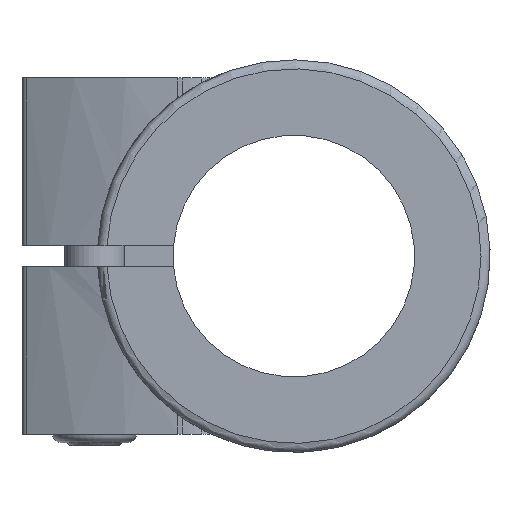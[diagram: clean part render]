
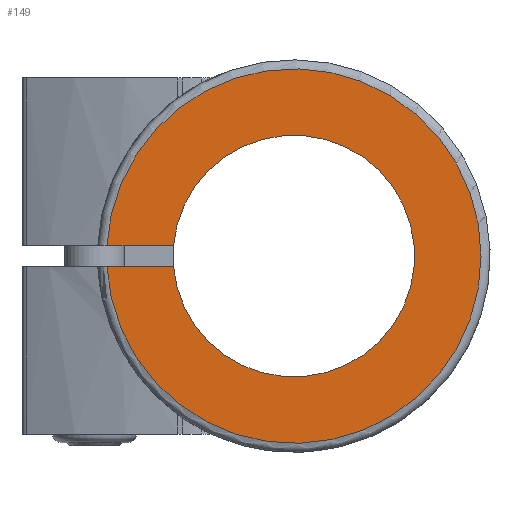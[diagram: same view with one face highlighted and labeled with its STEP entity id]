
A CAD part, left-side view. The second image highlights one B-rep face of the part: STEP entity #149.
In plain terms, the highlighted planar face has unit normal (-1, 0, 0).
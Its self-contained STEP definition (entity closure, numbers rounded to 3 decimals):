
#149 = ADVANCED_FACE( '', ( #404 ), #405, .F. );
#404 = FACE_OUTER_BOUND( '', #758, .T. );
#405 = PLANE( '', #759 );
#758 = EDGE_LOOP( '', ( #1549, #1550, #1551, #1552 ) );
#759 = AXIS2_PLACEMENT_3D( '', #1553, #1554, #1555 );
#1549 = ORIENTED_EDGE( '', *, *, #2522, .F. );
#1550 = ORIENTED_EDGE( '', *, *, #2273, .F. );
#1551 = ORIENTED_EDGE( '', *, *, #2526, .F. );
#1552 = ORIENTED_EDGE( '', *, *, #2287, .F. );
#1553 = CARTESIAN_POINT( '', ( 0., 0., 0. ) );
#1554 = DIRECTION( '', ( 1., 0., 0. ) );
#1555 = DIRECTION( '', ( 0., 0., -1. ) );
#2273 = EDGE_CURVE( '', #2710, #2711, #2712, .T. );
#2287 = EDGE_CURVE( '', #2737, #2739, #2740, .T. );
#2522 = EDGE_CURVE( '', #2711, #2737, #3156, .F. );
#2526 = EDGE_CURVE( '', #2739, #2710, #3160, .T. );
#2710 = VERTEX_POINT( '', #3442 );
#2711 = VERTEX_POINT( '', #3443 );
#2712 = LINE( '', #3444, #3445 );
#2737 = VERTEX_POINT( '', #3489 );
#2739 = VERTEX_POINT( '', #3492 );
#2740 = LINE( '', #3493, #3494 );
#3156 = CIRCLE( '', #4261, 20. );
#3160 = CIRCLE( '', #4265, 31. );
#3442 = CARTESIAN_POINT( '', ( 0., 30.951, -1.75 ) );
#3443 = CARTESIAN_POINT( '', ( 0., 19.923, -1.75 ) );
#3444 = CARTESIAN_POINT( '', ( 0., 0., -1.75 ) );
#3445 = VECTOR( '', #4753, 1000. );
#3489 = CARTESIAN_POINT( '', ( 0., 19.923, 1.75 ) );
#3492 = CARTESIAN_POINT( '', ( 0., 30.951, 1.75 ) );
#3493 = CARTESIAN_POINT( '', ( 0., 0., 1.75 ) );
#3494 = VECTOR( '', #4776, 1000. );
#4261 = AXIS2_PLACEMENT_3D( '', #5137, #5138, #5139 );
#4265 = AXIS2_PLACEMENT_3D( '', #5149, #5150, #5151 );
#4753 = DIRECTION( '', ( 0., -1., 0. ) );
#4776 = DIRECTION( '', ( 0., 1., 0. ) );
#5137 = CARTESIAN_POINT( '', ( 0., 0., 0. ) );
#5138 = DIRECTION( '', ( 1., 0., 0. ) );
#5139 = DIRECTION( '', ( 0., 0., -1. ) );
#5149 = CARTESIAN_POINT( '', ( 0., 0., 0. ) );
#5150 = DIRECTION( '', ( 1., 0., 0. ) );
#5151 = DIRECTION( '', ( 0., 0., -1. ) );
